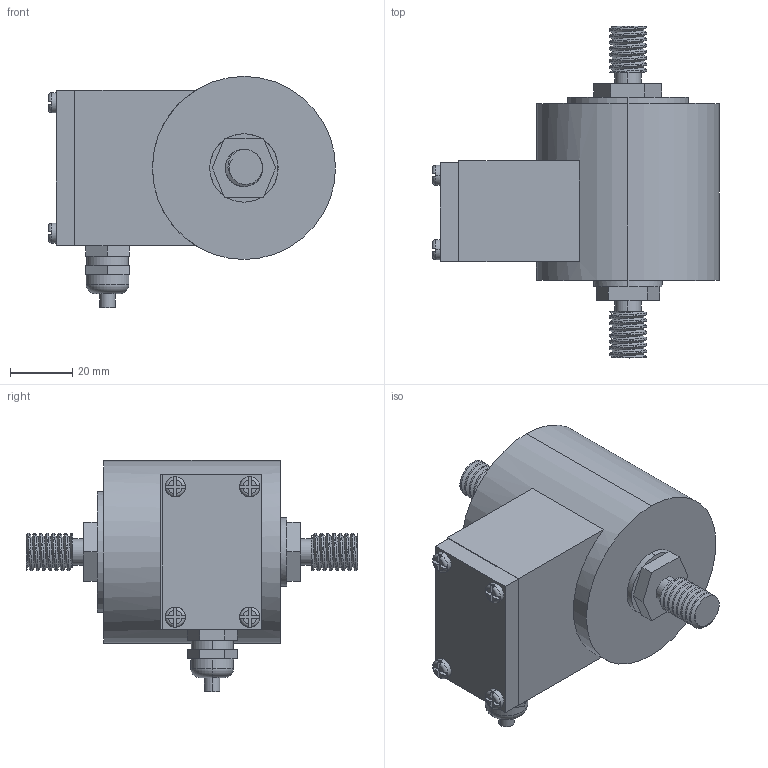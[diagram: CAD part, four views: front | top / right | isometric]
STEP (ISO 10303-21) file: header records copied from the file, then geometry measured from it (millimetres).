
FILE_DESCRIPTION (( 'STEP AP214' ), '1' );
FILE_NAME ('KT1101_K_500N.STEP', '2014-04-23T10:55:33', ( '' ), ( '' ), 'SwSTEP 2.0', 'SolidWorks 2012', '' );
FILE_SCHEMA (( 'AUTOMOTIVE_DESIGN' ));
Length unit declared in the file: metre
Products named in the file (1): KT1101_K_500N
Bounding box: 92.5 x 107 x 74.5 mm (x, y, z)
Volume: 224017.7 mm3; surface area: 26518.4 mm2
Topology: 1 solids, 1 shells, 193 faces, 471 edges, 300 vertices
Faces by surface type: plane 110, cylinder 61, torus 18, bspline 4
Entity records: 10254 total; most frequent: CARTESIAN_POINT 5371, ORIENTED_EDGE 942, DIRECTION 869, EDGE_CURVE 471, AXIS2_PLACEMENT_3D 314, VERTEX_POINT 300, LINE 241, VECTOR 241
